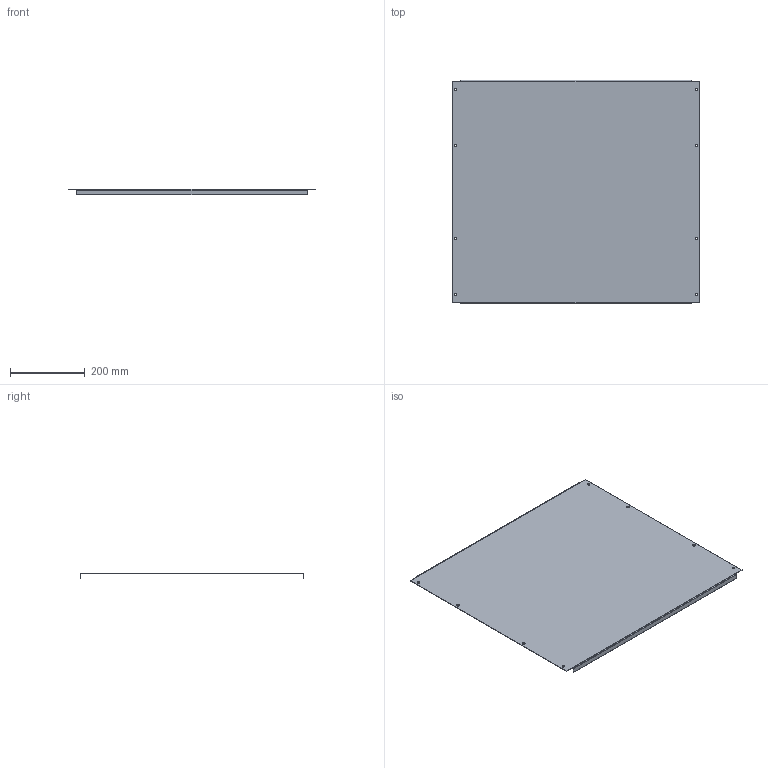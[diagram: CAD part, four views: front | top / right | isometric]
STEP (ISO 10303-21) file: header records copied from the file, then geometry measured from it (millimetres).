
FILE_DESCRIPTION (( 'STEP AP203' ), '1' );
FILE_NAME ('MB 60.70 Ïàíåëü ìîäóëüíàÿ.STEP', '2012-11-21T07:19:07', ( 'system' ), ( '' ), 'SwSTEP 2.0', 'SolidWorks 2012', '' );
FILE_SCHEMA (( 'CONFIG_CONTROL_DESIGN' ));
Length unit declared in the file: millimetre
Products named in the file (1): MB 60.70 Ïàíåëü ìîäóëüíàÿ
Bounding box: 665 x 599 x 15 mm (x, y, z)
Volume: 496721.1 mm3; surface area: 831175.8 mm2
Topology: 1 solids, 1 shells, 42 faces, 104 edges, 64 vertices
Faces by surface type: plane 22, cylinder 20
Entity records: 1349 total; most frequent: DIRECTION 230, CARTESIAN_POINT 211, ORIENTED_EDGE 208, EDGE_CURVE 104, AXIS2_PLACEMENT_3D 83, VECTOR 64, VERTEX_POINT 64, LINE 64
